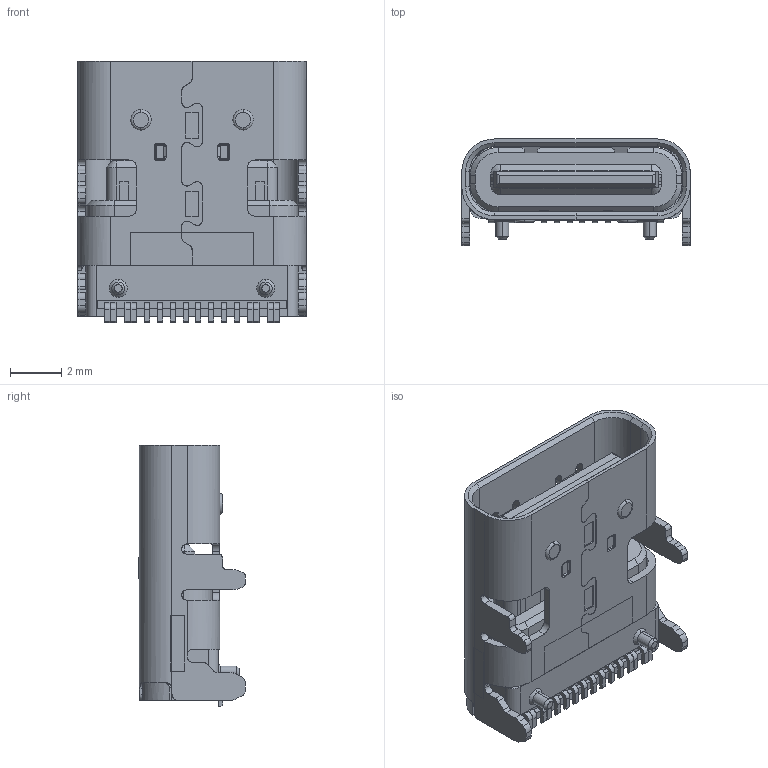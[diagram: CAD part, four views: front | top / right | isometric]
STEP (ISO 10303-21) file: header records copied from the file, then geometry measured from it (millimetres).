
FILE_DESCRIPTION (( 'STEP AP214' ), '1' );
FILE_NAME ('U5101-16PNT10.0L.STEP', '2026-05-15T02:10:33', ( '' ), ( '' ), 'SwSTEP 2.0', 'SolidWorks 2024', '' );
FILE_SCHEMA (( 'AUTOMOTIVE_DESIGN' ));
Length unit declared in the file: millimetre
Products named in the file (1): U5101-16PNT10.0L
Bounding box: 8.94 x 4.19 x 10.25 mm (x, y, z)
Surface area: 994.8 mm2 (no closed solid volume)
Topology: 0 solids, 22 shells, 2264 faces, 6591 edges, 4300 vertices
Faces by surface type: plane 1716, cylinder 429, cone 54, bspline 37, torus 28
Entity records: 80816 total; most frequent: CARTESIAN_POINT 29779, ORIENTED_EDGE 13170, DIRECTION 6757, EDGE_CURVE 6591, B_SPLINE_CURVE_WITH_KNOTS 4525, VERTEX_POINT 4300, AXIS2_PLACEMENT_3D 2473, EDGE_LOOP 2373
